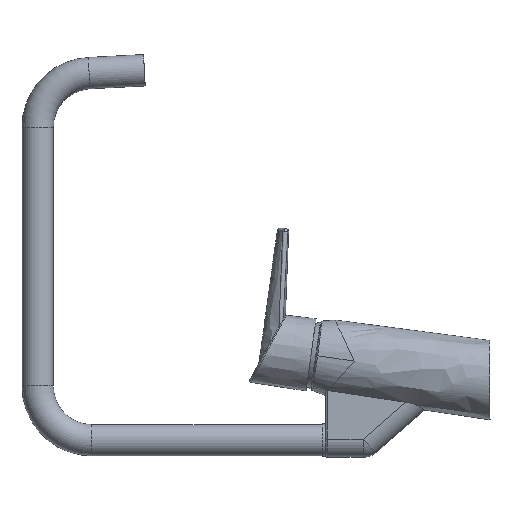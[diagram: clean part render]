
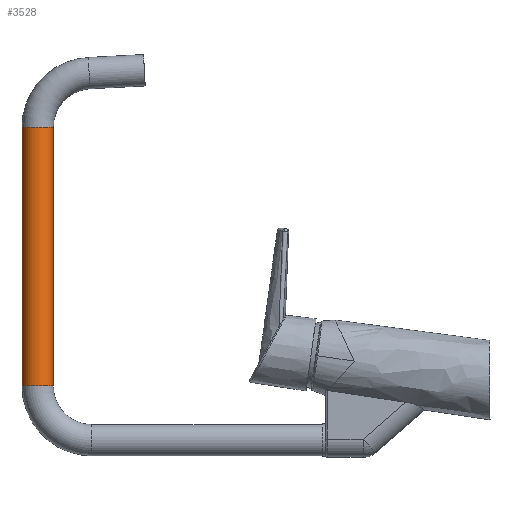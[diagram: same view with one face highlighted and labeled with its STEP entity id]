
A CAD part, left-side view. The second image highlights one B-rep face of the part: STEP entity #3528.
In plain terms, the highlighted cylindrical face has radius 11 mm (diameter 22 mm), a partial arc.
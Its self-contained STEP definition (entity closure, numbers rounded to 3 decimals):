
#7 = VECTOR ( 'NONE', #1146, 1000. ) ;
#63 = VERTEX_POINT ( 'NONE', #5669 ) ;
#67 = EDGE_LOOP ( 'NONE', ( #4129, #2178, #548, #4670 ) ) ;
#179 = CYLINDRICAL_SURFACE ( 'NONE', #5039, 11. ) ;
#200 = CIRCLE ( 'NONE', #5329, 11. ) ;
#304 = DIRECTION ( 'NONE',  ( 0., -1., 0. ) ) ;
#367 = LINE ( 'NONE', #4655, #3328 ) ;
#548 = ORIENTED_EDGE ( 'NONE', *, *, #1109, .T. ) ;
#569 = LINE ( 'NONE', #4237, #7 ) ;
#590 = EDGE_CURVE ( 'NONE', #2560, #1100, #933, .T. ) ;
#628 = DIRECTION ( 'NONE',  ( 0., 1., 0. ) ) ;
#933 = CIRCLE ( 'NONE', #1206, 11. ) ;
#1078 = CARTESIAN_POINT ( 'NONE',  ( 0., 316.983, 175.753 ) ) ;
#1100 = VERTEX_POINT ( 'NONE', #4231 ) ;
#1109 = EDGE_CURVE ( 'NONE', #1838, #63, #200, .T. ) ;
#1146 = DIRECTION ( 'NONE',  ( 0., 0., 1. ) ) ;
#1206 = AXIS2_PLACEMENT_3D ( 'NONE', #4694, #2937, #304 ) ;
#1596 = CARTESIAN_POINT ( 'NONE',  ( 0., 305.983, -5.561 ) ) ;
#1838 = VERTEX_POINT ( 'NONE', #2875 ) ;
#2079 = EDGE_CURVE ( 'NONE', #2560, #1838, #569, .T. ) ;
#2178 = ORIENTED_EDGE ( 'NONE', *, *, #2079, .T. ) ;
#2180 = EDGE_CURVE ( 'NONE', #1100, #63, #367, .T. ) ;
#2458 = DIRECTION ( 'NONE',  ( 0., 0., -1. ) ) ;
#2560 = VERTEX_POINT ( 'NONE', #1596 ) ;
#2797 = CARTESIAN_POINT ( 'NONE',  ( 0., 316.983, -5.561 ) ) ;
#2875 = CARTESIAN_POINT ( 'NONE',  ( 0., 305.983, 175.753 ) ) ;
#2937 = DIRECTION ( 'NONE',  ( 0., 0., -1. ) ) ;
#3328 = VECTOR ( 'NONE', #5526, 1000. ) ;
#3528 = ADVANCED_FACE ( 'NONE', ( #5454 ), #179, .T. ) ;
#3713 = DIRECTION ( 'NONE',  ( 0., 0., 1. ) ) ;
#4129 = ORIENTED_EDGE ( 'NONE', *, *, #590, .F. ) ;
#4231 = CARTESIAN_POINT ( 'NONE',  ( 0., 327.983, -5.561 ) ) ;
#4237 = CARTESIAN_POINT ( 'NONE',  ( 0., 305.983, -5.561 ) ) ;
#4655 = CARTESIAN_POINT ( 'NONE',  ( 0., 327.983, -5.561 ) ) ;
#4670 = ORIENTED_EDGE ( 'NONE', *, *, #2180, .F. ) ;
#4694 = CARTESIAN_POINT ( 'NONE',  ( 0., 316.983, -5.561 ) ) ;
#5039 = AXIS2_PLACEMENT_3D ( 'NONE', #2797, #3713, #628 ) ;
#5329 = AXIS2_PLACEMENT_3D ( 'NONE', #1078, #2458, #5515 ) ;
#5454 = FACE_OUTER_BOUND ( 'NONE', #67, .T. ) ;
#5515 = DIRECTION ( 'NONE',  ( 0., -1., 0. ) ) ;
#5526 = DIRECTION ( 'NONE',  ( 0., 0., 1. ) ) ;
#5669 = CARTESIAN_POINT ( 'NONE',  ( 0., 327.983, 175.753 ) ) ;
